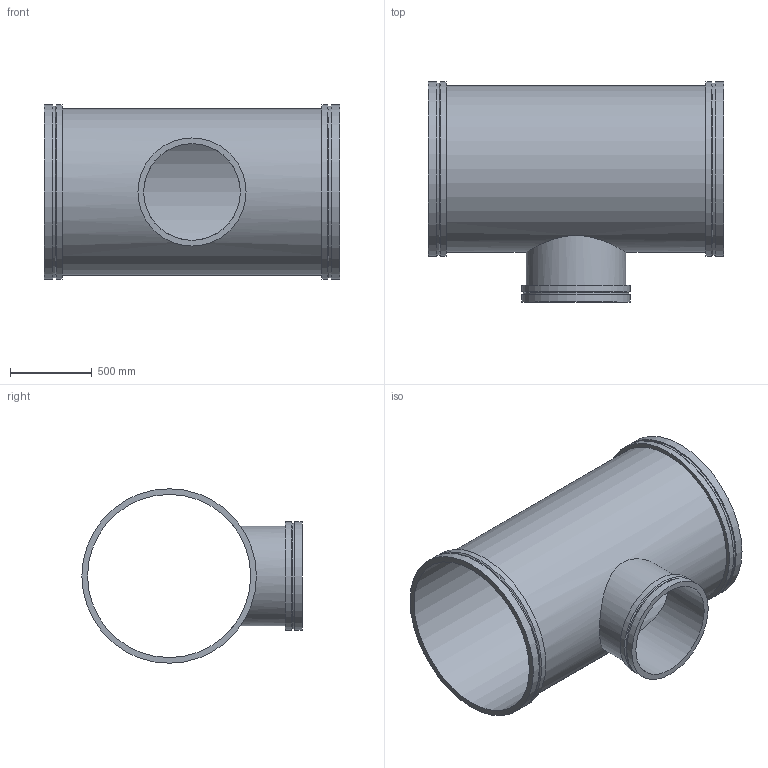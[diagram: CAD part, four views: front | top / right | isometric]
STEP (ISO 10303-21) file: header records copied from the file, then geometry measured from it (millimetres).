
FILE_DESCRIPTION(/* description */ ('VIC REDUCING TEE No W025 VR','CAx-IF Rec.Pracs.---Representation and Presentation of Product Manufacturing Information (PMI)---4.0---2014-10-13'),/* implementation_level */ '2;1');
FILE_NAME(/* name */ 'C:\Users\kkamble\AppData\Roaming\Autodesk\ApplicationPlugins\Back Up\Victaulic_Vic-Ring_Tee Reducing_No W25 VR (AGR)\Victaulic_Vic-Ring_Tee Reducing_No W25 VR (AGR)_40.0x24.0 (1000x600).stp',/* time_stamp */ '2020-09-10T11:55:33+05:00',/* author */ ('mchristi'),/* organization */ ('Victaulic'),/* preprocessor_version */ 'ST-DEVELOPER v17.2',/* originating_system */ 'Autodesk Inventor 2019',/* authorisation */ '');
FILE_SCHEMA (('AP242_MANAGED_MODEL_BASED_3D_ENGINEERING_MIM_LF { 1 0 10303 442 1 1 4 }'));
Length unit declared in the file: inch
Products named in the file (1): W25 VR-40.0x24.0
Bounding box: 1803.4 x 1346.2 x 1066.8 mm (x, y, z)
Volume: 79851193.1 mm3; surface area: 12817656.2 mm2
Topology: 1 solids, 1 shells, 25 faces, 68 edges, 52 vertices
Faces by surface type: cylinder 13, plane 9, cone 3
Full cylindrical faces by diameter (mm): 590.55 x1, 609.6 x1, 645.922 x1, 660.4 x2, 996.95 x1, 1016 x1, 1050.925 x2, 1066.8 x4
Entity records: 1259 total; most frequent: CARTESIAN_POINT 415, DIRECTION 190, ORIENTED_EDGE 136, AXIS2_PLACEMENT_3D 87, EDGE_CURVE 68, VERTEX_POINT 52, CIRCLE 48, EDGE_LOOP 36
